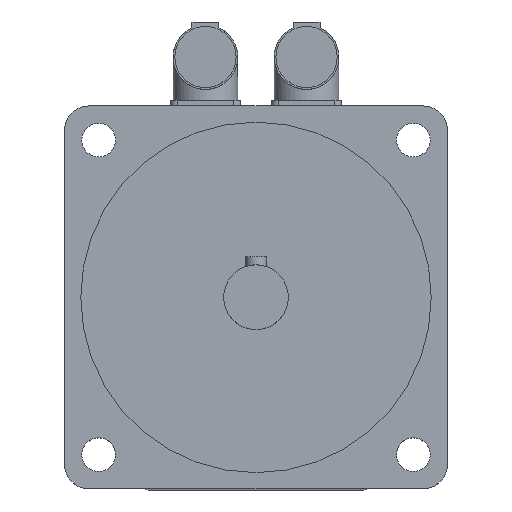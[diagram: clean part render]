
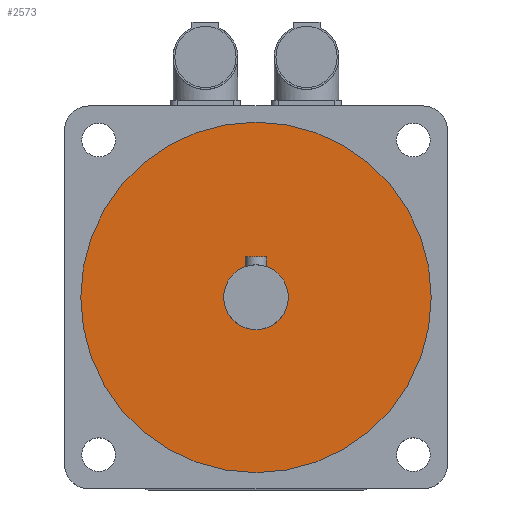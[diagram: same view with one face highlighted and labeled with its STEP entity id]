
A CAD part, top view. The second image highlights one B-rep face of the part: STEP entity #2573.
In plain terms, the highlighted planar face has unit normal (0, 0, 1).
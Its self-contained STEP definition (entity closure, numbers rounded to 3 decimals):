
#40=FACE_BOUND('',#443,.T.);
#68=CIRCLE('',#2730,12.);
#69=CIRCLE('',#2733,65.);
#285=FACE_OUTER_BOUND('',#442,.T.);
#442=EDGE_LOOP('',(#1750));
#443=EDGE_LOOP('',(#1751));
#1090=VERTEX_POINT('',#3908);
#1091=VERTEX_POINT('',#3912);
#1348=EDGE_CURVE('',#1090,#1090,#68,.T.);
#1349=EDGE_CURVE('',#1091,#1091,#69,.T.);
#1750=ORIENTED_EDGE('',*,*,#1349,.T.);
#1751=ORIENTED_EDGE('',*,*,#1348,.T.);
#2497=PLANE('',#2735);
#2573=ADVANCED_FACE('',(#285,#40),#2497,.F.);
#2730=AXIS2_PLACEMENT_3D('',#3909,#3045,#3046);
#2733=AXIS2_PLACEMENT_3D('',#3913,#3051,#3052);
#2735=AXIS2_PLACEMENT_3D('',#3916,#3055,#3056);
#3045=DIRECTION('center_axis',(0.,0.,
-1.));
#3046=DIRECTION('ref_axis',(-1.,0.,0.));
#3051=DIRECTION('center_axis',(0.,0.,
1.));
#3052=DIRECTION('ref_axis',(-1.,0.,0.));
#3055=DIRECTION('center_axis',(0.,0.,
-1.));
#3056=DIRECTION('ref_axis',(-1.,0.,0.));
#3908=CARTESIAN_POINT('',(12.,0.,226.5));
#3909=CARTESIAN_POINT('Origin',(0.,0.,
226.5));
#3912=CARTESIAN_POINT('',(65.,0.,226.5));
#3913=CARTESIAN_POINT('Origin',(0.,0.,
226.5));
#3916=CARTESIAN_POINT('Origin',(0.,0.,
226.5));
